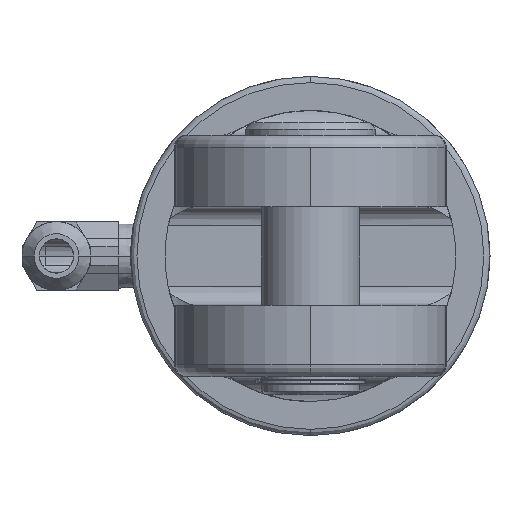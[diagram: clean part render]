
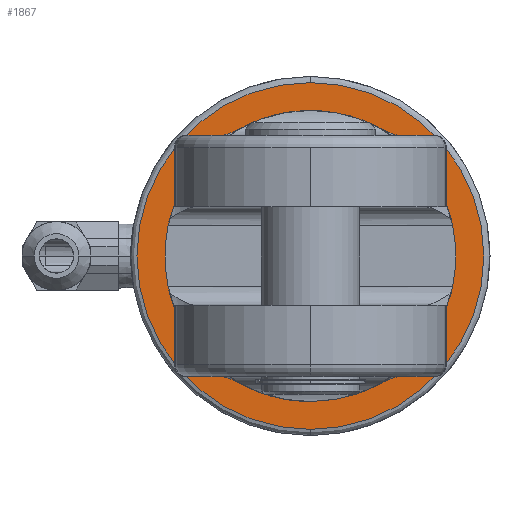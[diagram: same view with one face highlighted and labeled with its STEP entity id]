
A CAD part, left-side view. The second image highlights one B-rep face of the part: STEP entity #1867.
In plain terms, the highlighted planar face has unit normal (-1, 0, 0).
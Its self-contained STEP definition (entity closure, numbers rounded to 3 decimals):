
#128 = DIRECTION ( 'NONE',  ( 0., 0., -1. ) ) ;
#184 = ORIENTED_EDGE ( 'NONE', *, *, #7905, .F. ) ;
#445 = CIRCLE ( 'NONE', #5421, 28. ) ;
#679 = DIRECTION ( 'NONE',  ( -1., 0., 0. ) ) ;
#763 = AXIS2_PLACEMENT_3D ( 'NONE', #3462, #8177, #4143 ) ;
#785 = CARTESIAN_POINT ( 'NONE',  ( -966., 28., 0. ) ) ;
#1128 = ORIENTED_EDGE ( 'NONE', *, *, #8398, .T. ) ;
#1261 = CARTESIAN_POINT ( 'NONE',  ( -966., 0., 28. ) ) ;
#1343 = DIRECTION ( 'NONE',  ( 0., 0., -1. ) ) ;
#1525 = CARTESIAN_POINT ( 'NONE',  ( -966., 22.973, -4.95 ) ) ;
#1550 = EDGE_CURVE ( 'NONE', #8143, #8467, #5831, .T. ) ;
#1696 = CIRCLE ( 'NONE', #4668, 23.5 ) ;
#1867 = ADVANCED_FACE ( 'NONE', ( #2495, #5885 ), #8210, .F. ) ;
#1882 = DIRECTION ( 'NONE',  ( -1., 0., 0. ) ) ;
#2084 = CARTESIAN_POINT ( 'NONE',  ( -966., 0., -23.5 ) ) ;
#2248 = ORIENTED_EDGE ( 'NONE', *, *, #1550, .F. ) ;
#2349 = CARTESIAN_POINT ( 'NONE',  ( -966., -22.973, 4.95 ) ) ;
#2408 = CARTESIAN_POINT ( 'NONE',  ( -966., 0., -28. ) ) ;
#2492 = CARTESIAN_POINT ( 'NONE',  ( -966., 0., 0. ) ) ;
#2495 = FACE_BOUND ( 'NONE', #3502, .T. ) ;
#2660 = AXIS2_PLACEMENT_3D ( 'NONE', #785, #4179, #128 ) ;
#2701 = EDGE_CURVE ( 'NONE', #8143, #7306, #5552, .T. ) ;
#2703 = DIRECTION ( 'NONE',  ( 1., 0., 0. ) ) ;
#2998 = ORIENTED_EDGE ( 'NONE', *, *, #2701, .T. ) ;
#3008 = ORIENTED_EDGE ( 'NONE', *, *, #5223, .T. ) ;
#3027 = CARTESIAN_POINT ( 'NONE',  ( -966., -22.973, -4.95 ) ) ;
#3170 = DIRECTION ( 'NONE',  ( 0., 0., -1. ) ) ;
#3229 = EDGE_LOOP ( 'NONE', ( #4074, #3008 ) ) ;
#3338 = CARTESIAN_POINT ( 'NONE',  ( -966., 0., 0. ) ) ;
#3442 = VERTEX_POINT ( 'NONE', #1261 ) ;
#3462 = CARTESIAN_POINT ( 'NONE',  ( -966., 0., 0. ) ) ;
#3465 = DIRECTION ( 'NONE',  ( -1., 0., 0. ) ) ;
#3492 = VERTEX_POINT ( 'NONE', #4721 ) ;
#3502 = EDGE_LOOP ( 'NONE', ( #2248, #2998, #3993, #184, #1128 ) ) ;
#3634 = VERTEX_POINT ( 'NONE', #1525 ) ;
#3635 = DIRECTION ( 'NONE',  ( -1., 0., 0. ) ) ;
#3987 = CIRCLE ( 'NONE', #5197, 23.5 ) ;
#3993 = ORIENTED_EDGE ( 'NONE', *, *, #4934, .T. ) ;
#4074 = ORIENTED_EDGE ( 'NONE', *, *, #5412, .T. ) ;
#4143 = DIRECTION ( 'NONE',  ( 0., 0., -1. ) ) ;
#4179 = DIRECTION ( 'NONE',  ( 1., 0., 0. ) ) ;
#4232 = VERTEX_POINT ( 'NONE', #2408 ) ;
#4668 = AXIS2_PLACEMENT_3D ( 'NONE', #2492, #7222, #3170 ) ;
#4721 = CARTESIAN_POINT ( 'NONE',  ( -966., 22.973, 4.95 ) ) ;
#4723 = CARTESIAN_POINT ( 'NONE',  ( -966., 0., 0. ) ) ;
#4934 = EDGE_CURVE ( 'NONE', #7306, #3634, #1696, .T. ) ;
#4942 = CIRCLE ( 'NONE', #7358, 23.5 ) ;
#5197 = AXIS2_PLACEMENT_3D ( 'NONE', #6754, #2703, #7434 ) ;
#5223 = EDGE_CURVE ( 'NONE', #4232, #3442, #445, .T. ) ;
#5404 = DIRECTION ( 'NONE',  ( 0., 0., 1. ) ) ;
#5412 = EDGE_CURVE ( 'NONE', #3442, #4232, #7292, .T. ) ;
#5421 = AXIS2_PLACEMENT_3D ( 'NONE', #7687, #3635, #8341 ) ;
#5552 = CIRCLE ( 'NONE', #763, 23.5 ) ;
#5731 = AXIS2_PLACEMENT_3D ( 'NONE', #3338, #1882, #1343 ) ;
#5831 = CIRCLE ( 'NONE', #5731, 23.5 ) ;
#5885 = FACE_OUTER_BOUND ( 'NONE', #3229, .T. ) ;
#6167 = AXIS2_PLACEMENT_3D ( 'NONE', #4723, #679, #5404 ) ;
#6754 = CARTESIAN_POINT ( 'NONE',  ( -966., 0., 0. ) ) ;
#7222 = DIRECTION ( 'NONE',  ( 1., 0., 0. ) ) ;
#7292 = CIRCLE ( 'NONE', #6167, 28. ) ;
#7306 = VERTEX_POINT ( 'NONE', #2084 ) ;
#7358 = AXIS2_PLACEMENT_3D ( 'NONE', #7506, #3465, #8183 ) ;
#7434 = DIRECTION ( 'NONE',  ( 0., 0., -1. ) ) ;
#7506 = CARTESIAN_POINT ( 'NONE',  ( -966., 0., 0. ) ) ;
#7687 = CARTESIAN_POINT ( 'NONE',  ( -966., 0., 0. ) ) ;
#7905 = EDGE_CURVE ( 'NONE', #3492, #3634, #4942, .T. ) ;
#8143 = VERTEX_POINT ( 'NONE', #3027 ) ;
#8177 = DIRECTION ( 'NONE',  ( 1., 0., 0. ) ) ;
#8183 = DIRECTION ( 'NONE',  ( 0., 0., -1. ) ) ;
#8210 = PLANE ( 'NONE',  #2660 ) ;
#8341 = DIRECTION ( 'NONE',  ( 0., 0., 1. ) ) ;
#8398 = EDGE_CURVE ( 'NONE', #3492, #8467, #3987, .T. ) ;
#8467 = VERTEX_POINT ( 'NONE', #2349 ) ;
